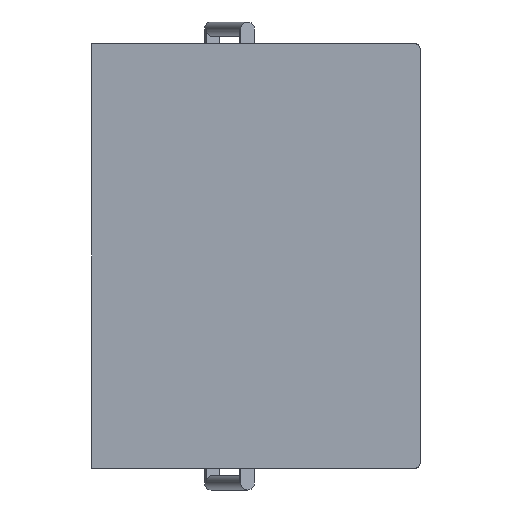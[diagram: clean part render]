
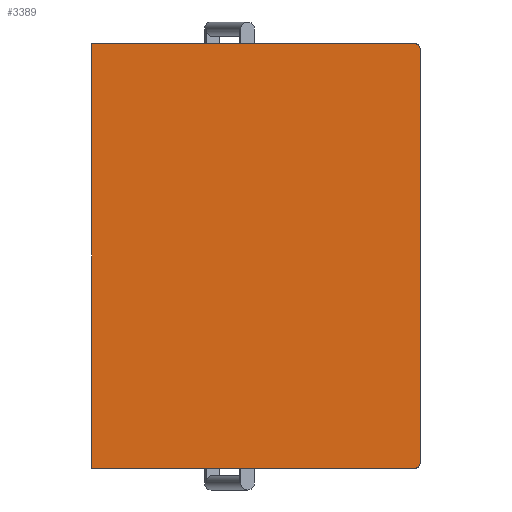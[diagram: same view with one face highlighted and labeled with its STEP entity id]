
A CAD part, front view. The second image highlights one B-rep face of the part: STEP entity #3389.
In plain terms, the highlighted planar face has unit normal (0, -1, 0) as drawn and (-1, 0, 0) by its records, which use the part's own axes.
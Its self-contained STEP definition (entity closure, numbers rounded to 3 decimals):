
#48 = CARTESIAN_POINT ( 'NONE',  ( 0., 0., 335. ) ) ;
#59 = ORIENTED_EDGE ( 'NONE', *, *, #999, .T. ) ;
#172 = CARTESIAN_POINT ( 'NONE',  ( 0., 440., 0. ) ) ;
#253 = ORIENTED_EDGE ( 'NONE', *, *, #1573, .F. ) ;
#281 = DIRECTION ( 'NONE',  ( 1., 0., 0. ) ) ;
#328 = LINE ( 'NONE', #1168, #1017 ) ;
#453 = CARTESIAN_POINT ( 'NONE',  ( 0., 440., 0. ) ) ;
#510 = LINE ( 'NONE', #172, #1200 ) ;
#515 = ORIENTED_EDGE ( 'NONE', *, *, #2164, .T. ) ;
#600 = FACE_OUTER_BOUND ( 'NONE', #1645, .T. ) ;
#625 = DIRECTION ( 'NONE',  ( 0., -1., 0. ) ) ;
#660 = LINE ( 'NONE', #1805, #2455 ) ;
#717 = DIRECTION ( 'NONE',  ( -1., 0., 0. ) ) ;
#907 = EDGE_CURVE ( 'NONE', #1420, #2136, #328, .T. ) ;
#992 = CARTESIAN_POINT ( 'NONE',  ( 0., 435., 340. ) ) ;
#999 = EDGE_CURVE ( 'NONE', #1420, #2474, #3471, .T. ) ;
#1014 = CIRCLE ( 'NONE', #3046, 5. ) ;
#1017 = VECTOR ( 'NONE', #625, 1000. ) ;
#1145 = CARTESIAN_POINT ( 'NONE',  ( 0., 220., 170. ) ) ;
#1168 = CARTESIAN_POINT ( 'NONE',  ( 0., 440., 340. ) ) ;
#1200 = VECTOR ( 'NONE', #2789, 1000. ) ;
#1210 = ORIENTED_EDGE ( 'NONE', *, *, #907, .F. ) ;
#1420 = VERTEX_POINT ( 'NONE', #992 ) ;
#1508 = CARTESIAN_POINT ( 'NONE',  ( 0., 5., 340. ) ) ;
#1521 = CARTESIAN_POINT ( 'NONE',  ( 0., 0., 0. ) ) ;
#1573 = EDGE_CURVE ( 'NONE', #3186, #2214, #2732, .T. ) ;
#1595 = EDGE_CURVE ( 'NONE', #2214, #2474, #510, .T. ) ;
#1645 = EDGE_LOOP ( 'NONE', ( #1210, #59, #2280, #253, #3612, #515 ) ) ;
#1703 = DIRECTION ( 'NONE',  ( 0., 1., 0. ) ) ;
#1805 = CARTESIAN_POINT ( 'NONE',  ( 0., 0., 0. ) ) ;
#1907 = DIRECTION ( 'NONE',  ( 0., 1., 0. ) ) ;
#2136 = VERTEX_POINT ( 'NONE', #1508 ) ;
#2154 = VECTOR ( 'NONE', #1907, 1000. ) ;
#2164 = EDGE_CURVE ( 'NONE', #2589, #2136, #1014, .T. ) ;
#2214 = VERTEX_POINT ( 'NONE', #2580 ) ;
#2273 = DIRECTION ( 'NONE',  ( -1., 0., 0. ) ) ;
#2280 = ORIENTED_EDGE ( 'NONE', *, *, #1595, .F. ) ;
#2438 = DIRECTION ( 'NONE',  ( 0., 1., 0. ) ) ;
#2455 = VECTOR ( 'NONE', #2947, 1000. ) ;
#2474 = VERTEX_POINT ( 'NONE', #2858 ) ;
#2580 = CARTESIAN_POINT ( 'NONE',  ( 0., 440., 0. ) ) ;
#2589 = VERTEX_POINT ( 'NONE', #48 ) ;
#2599 = DIRECTION ( 'NONE',  ( 0., 1., 0. ) ) ;
#2732 = LINE ( 'NONE', #453, #2154 ) ;
#2789 = DIRECTION ( 'NONE',  ( 0., 0., 1. ) ) ;
#2858 = CARTESIAN_POINT ( 'NONE',  ( 0., 440., 335. ) ) ;
#2934 = CARTESIAN_POINT ( 'NONE',  ( 0., 5., 335. ) ) ;
#2947 = DIRECTION ( 'NONE',  ( 0., 0., -1. ) ) ;
#3046 = AXIS2_PLACEMENT_3D ( 'NONE', #2934, #2273, #2599 ) ;
#3131 = PLANE ( 'NONE',  #3410 ) ;
#3179 = EDGE_CURVE ( 'NONE', #2589, #3186, #660, .T. ) ;
#3186 = VERTEX_POINT ( 'NONE', #1521 ) ;
#3389 = ADVANCED_FACE ( 'NONE', ( #600 ), #3131, .F. ) ;
#3410 = AXIS2_PLACEMENT_3D ( 'NONE', #1145, #281, #1703 ) ;
#3471 = CIRCLE ( 'NONE', #3649, 5. ) ;
#3532 = CARTESIAN_POINT ( 'NONE',  ( 0., 435., 335. ) ) ;
#3612 = ORIENTED_EDGE ( 'NONE', *, *, #3179, .F. ) ;
#3649 = AXIS2_PLACEMENT_3D ( 'NONE', #3532, #717, #2438 ) ;
